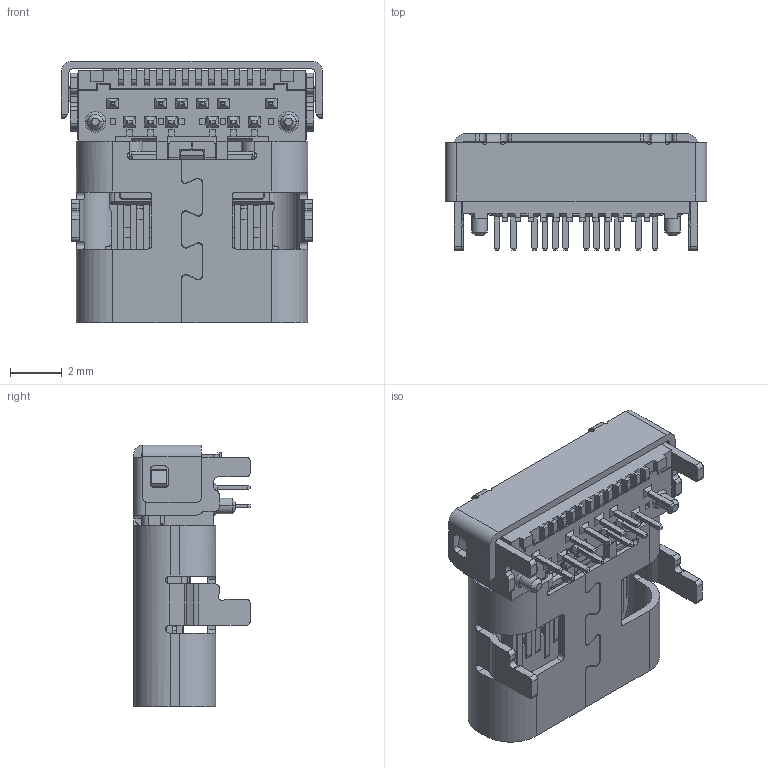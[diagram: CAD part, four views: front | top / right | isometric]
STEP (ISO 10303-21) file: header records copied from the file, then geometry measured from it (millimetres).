
FILE_DESCRIPTION((''),'2;1');
FILE_NAME('1111','2019-10-25T',('Administrator'),(''),'PRO/ENGINEER BY PARAMETRIC TECHNOLOGY CORPORATION, 2014000','PRO/ENGINEER BY PARAMETRIC TECHNOLOGY CORPORATION, 2014000','');
FILE_SCHEMA(('CONFIG_CONTROL_DESIGN'));
Products named in the file (1): 1111
Bounding box: 10.1 x 4.49 x 10.1 mm (x, y, z)
Volume: 159 mm3; surface area: 869.4 mm2
Topology: 1 solids, 30 shells, 2093 faces, 5858 edges, 3774 vertices
Faces by surface type: plane 1629, cylinder 400, cone 58, torus 4, bspline 2
Entity records: 77592 total; most frequent: CARTESIAN_POINT 12242, ORIENTED_EDGE 11716, DIRECTION 10884, EDGE_CURVE 5858, VECTOR 4816, LINE 4816, VERTEX_POINT 3774, AXIS2_PLACEMENT_3D 3034
